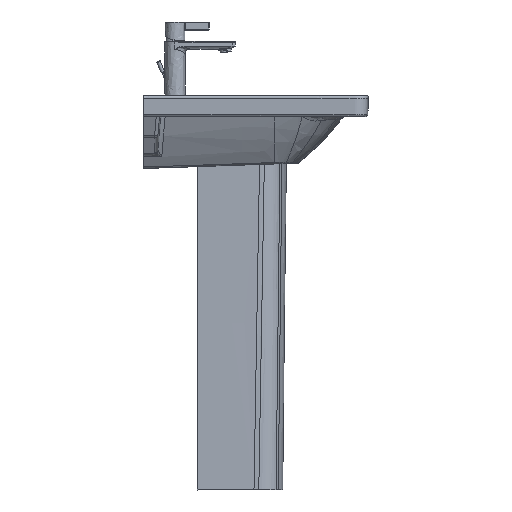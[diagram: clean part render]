
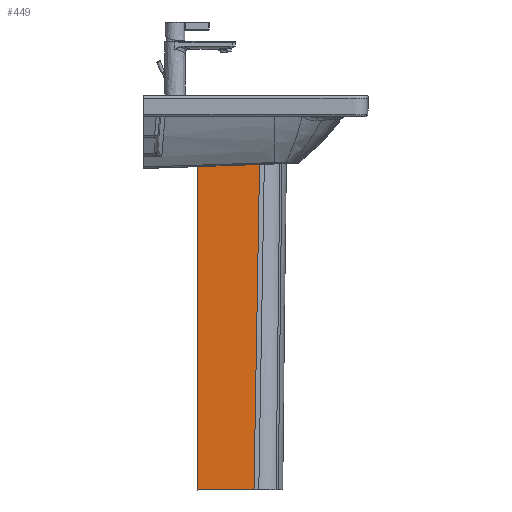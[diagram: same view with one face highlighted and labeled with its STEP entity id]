
A CAD part, left-side view. The second image highlights one B-rep face of the part: STEP entity #449.
In plain terms, the highlighted free-form (B-spline) face has degree [5, 5] with [9, 6] control points.
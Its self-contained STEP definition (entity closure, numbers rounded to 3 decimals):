
#449=ADVANCED_FACE('',(#1108),#9706,.T.);
#1108=FACE_OUTER_BOUND('',#1778,.T.);
#1778=EDGE_LOOP('',(#3823,#3824,#3825,#3826));
#3823=ORIENTED_EDGE('',*,*,#6135,.T.);
#3824=ORIENTED_EDGE('',*,*,#6137,.T.);
#3825=ORIENTED_EDGE('',*,*,#6136,.F.);
#3826=ORIENTED_EDGE('',*,*,#6121,.F.);
#6121=EDGE_CURVE('',#8967,#8953,#7920,.T.);
#6135=EDGE_CURVE('',#8967,#8974,#7934,.T.);
#6136=EDGE_CURVE('',#8953,#8954,#7935,.T.);
#6137=EDGE_CURVE('',#8974,#8954,#7936,.T.);
#7920=B_SPLINE_CURVE_WITH_KNOTS('',5,(#81578,#81579,#81580,#81581,#81582,
#81583,#81584,#81585,#81586,#81587,#81588,#81589,#81590,#81591,#81592,#81593,
#81594,#81595,#81596,#81597,#81598,#81599,#81600,#81601,#81602,#81603,#81604),
 .UNSPECIFIED.,.F.,.F.,(6,3,3,3,3,3,3,3,6),(-1014.293,-939.337,
-737.18,-534.646,-481.407,-329.77,
-152.247,-0.123,0.),.UNSPECIFIED.);
#7934=B_SPLINE_CURVE_WITH_KNOTS('',5,(#81801,#81802,#81803,#81804,#81805,
#81806),.UNSPECIFIED.,.F.,.F.,(6,6),(-44.424,76.24),
 .UNSPECIFIED.);
#7935=B_SPLINE_CURVE_WITH_KNOTS('',5,(#81807,#81808,#81809,#81810,#81811,
#81812),.UNSPECIFIED.,.F.,.F.,(6,6),(-132.778,0.),
 .UNSPECIFIED.);
#7936=B_SPLINE_CURVE_WITH_KNOTS('',5,(#81813,#81814,#81815,#81816,#81817,
#81818,#81819,#81820,#81821),.UNSPECIFIED.,.F.,.F.,(6,3,6),(-715.162,
-357.581,0.),.UNSPECIFIED.);
#8953=VERTEX_POINT('',#81302);
#8954=VERTEX_POINT('',#81303);
#8967=VERTEX_POINT('',#81316);
#8974=VERTEX_POINT('',#81323);
#9706=B_SPLINE_SURFACE_WITH_KNOTS('',5,5,((#79519,#79520,#79521,#79522,
#79523,#79524),(#79525,#79526,#79527,#79528,#79529,#79530),(#79531,#79532,
#79533,#79534,#79535,#79536),(#79537,#79538,#79539,#79540,#79541,#79542),
(#79543,#79544,#79545,#79546,#79547,#79548),(#79549,#79550,#79551,#79552,
#79553,#79554),(#79555,#79556,#79557,#79558,#79559,#79560),(#79561,#79562,
#79563,#79564,#79565,#79566),(#79567,#79568,#79569,#79570,#79571,#79572)),
 .UNSPECIFIED.,.F.,.F.,.F.,(6,3,6),(6,6),(0.,357.581,715.162),
(-86.45,76.24),.UNSPECIFIED.);
#79519=CARTESIAN_POINT('',(-11.217,79.966,-44.927));
#79520=CARTESIAN_POINT('',(-10.717,47.414,-44.927));
#79521=CARTESIAN_POINT('',(-10.217,14.861,-44.927));
#79522=CARTESIAN_POINT('',(-9.717,-17.691,-44.927));
#79523=CARTESIAN_POINT('',(-9.217,-50.244,-44.927));
#79524=CARTESIAN_POINT('',(-8.717,-82.797,-44.927));
#79525=CARTESIAN_POINT('',(-10.467,81.166,-116.427));
#79526=CARTESIAN_POINT('',(-10.301,48.612,-116.43));
#79527=CARTESIAN_POINT('',(-9.89,16.059,-116.43));
#79528=CARTESIAN_POINT('',(-9.357,-16.492,-116.428));
#79529=CARTESIAN_POINT('',(-8.823,-49.044,-116.426));
#79530=CARTESIAN_POINT('',(-8.412,-81.597,-116.427));
#79531=CARTESIAN_POINT('',(-9.717,82.366,-187.927));
#79532=CARTESIAN_POINT('',(-10.12,49.816,-187.936));
#79533=CARTESIAN_POINT('',(-9.915,17.269,-187.939));
#79534=CARTESIAN_POINT('',(-9.36,-15.275,-187.938));
#79535=CARTESIAN_POINT('',(-8.713,-47.821,-187.937));
#79536=CARTESIAN_POINT('',(-8.233,-80.369,-187.938));
#79537=CARTESIAN_POINT('',(-8.967,83.566,-259.427));
#79538=CARTESIAN_POINT('',(-8.773,51.021,-259.43));
#79539=CARTESIAN_POINT('',(-8.13,18.482,-259.426));
#79540=CARTESIAN_POINT('',(-7.317,-14.054,-259.419));
#79541=CARTESIAN_POINT('',(-6.609,-46.59,-259.412));
#79542=CARTESIAN_POINT('',(-6.282,-79.132,-259.41));
#79543=CARTESIAN_POINT('',(-7.467,85.966,-402.427));
#79544=CARTESIAN_POINT('',(-7.662,53.427,-402.434));
#79545=CARTESIAN_POINT('',(-7.074,20.899,-402.432));
#79546=CARTESIAN_POINT('',(-6.108,-11.623,-402.426));
#79547=CARTESIAN_POINT('',(-5.169,-44.146,-402.42));
#79548=CARTESIAN_POINT('',(-4.662,-76.676,-402.419));
#79549=CARTESIAN_POINT('',(-5.967,88.366,-545.427));
#79550=CARTESIAN_POINT('',(-5.773,55.835,-545.43));
#79551=CARTESIAN_POINT('',(-4.978,23.317,-545.426));
#79552=CARTESIAN_POINT('',(-3.924,-9.195,-545.42));
#79553=CARTESIAN_POINT('',(-2.952,-41.708,-545.413));
#79554=CARTESIAN_POINT('',(-2.401,-74.227,-545.41));
#79555=CARTESIAN_POINT('',(-5.217,89.566,-616.927));
#79556=CARTESIAN_POINT('',(-5.62,57.037,-616.936));
#79557=CARTESIAN_POINT('',(-5.224,24.519,-616.939));
#79558=CARTESIAN_POINT('',(-4.368,-7.992,-616.939));
#79559=CARTESIAN_POINT('',(-3.391,-40.503,-616.938));
#79560=CARTESIAN_POINT('',(-2.632,-73.021,-616.939));
#79561=CARTESIAN_POINT('',(-4.467,90.766,-688.427));
#79562=CARTESIAN_POINT('',(-4.301,58.24,-688.43));
#79563=CARTESIAN_POINT('',(-3.737,25.722,-688.43));
#79564=CARTESIAN_POINT('',(-2.964,-6.792,-688.429));
#79565=CARTESIAN_POINT('',(-2.167,-39.306,-688.427));
#79566=CARTESIAN_POINT('',(-1.533,-71.822,-688.427));
#79567=CARTESIAN_POINT('',(-3.717,91.966,-759.927));
#79568=CARTESIAN_POINT('',(-3.218,59.449,-759.927));
#79569=CARTESIAN_POINT('',(-2.718,26.931,-759.927));
#79570=CARTESIAN_POINT('',(-2.219,-5.587,-759.927));
#79571=CARTESIAN_POINT('',(-1.72,-38.104,-759.927));
#79572=CARTESIAN_POINT('',(-1.22,-70.622,-759.927));
#81302=CARTESIAN_POINT('',(-10.757,49.966,-44.927));
#81303=CARTESIAN_POINT('',(-8.717,-82.797,-44.927));
#81316=CARTESIAN_POINT('',(-3.072,49.966,-759.927));
#81323=CARTESIAN_POINT('',(-1.22,-70.622,-759.927));
#81578=CARTESIAN_POINT('',(-3.072,49.966,-759.927));
#81579=CARTESIAN_POINT('',(-3.215,49.966,-749.329));
#81580=CARTESIAN_POINT('',(-3.365,49.966,-738.731));
#81581=CARTESIAN_POINT('',(-3.517,49.966,-728.134));
#81582=CARTESIAN_POINT('',(-4.071,49.966,-688.954));
#81583=CARTESIAN_POINT('',(-4.584,49.966,-649.773));
#81584=CARTESIAN_POINT('',(-4.903,49.966,-621.105));
#81585=CARTESIAN_POINT('',(-5.481,49.966,-563.884));
#81586=CARTESIAN_POINT('',(-6.035,49.966,-506.664));
#81587=CARTESIAN_POINT('',(-6.328,49.966,-478.208));
#81588=CARTESIAN_POINT('',(-6.744,49.966,-442.044));
#81589=CARTESIAN_POINT('',(-7.149,49.966,-405.88));
#81590=CARTESIAN_POINT('',(-7.211,49.966,-400.24));
#81591=CARTESIAN_POINT('',(-7.523,49.966,-371.272));
#81592=CARTESIAN_POINT('',(-7.827,49.966,-342.305));
#81593=CARTESIAN_POINT('',(-8.065,49.966,-320.814));
#81594=CARTESIAN_POINT('',(-8.601,49.966,-274.274));
#81595=CARTESIAN_POINT('',(-9.148,49.966,-227.734));
#81596=CARTESIAN_POINT('',(-9.434,49.966,-202.722));
#81597=CARTESIAN_POINT('',(-9.914,49.966,-156.113));
#81598=CARTESIAN_POINT('',(-10.296,49.966,-109.502));
#81599=CARTESIAN_POINT('',(-10.451,49.966,-88.033));
#81600=CARTESIAN_POINT('',(-10.595,49.966,-66.506));
#81601=CARTESIAN_POINT('',(-10.756,49.966,-44.979));
#81602=CARTESIAN_POINT('',(-10.756,49.966,-44.976));
#81603=CARTESIAN_POINT('',(-10.756,49.966,-44.951));
#81604=CARTESIAN_POINT('',(-10.757,49.966,-44.927));
#81801=CARTESIAN_POINT('',(-3.072,49.966,-759.927));
#81802=CARTESIAN_POINT('',(-2.702,25.849,-759.927));
#81803=CARTESIAN_POINT('',(-2.331,1.731,-759.927));
#81804=CARTESIAN_POINT('',(-1.961,-22.387,-759.927));
#81805=CARTESIAN_POINT('',(-1.591,-46.504,-759.927));
#81806=CARTESIAN_POINT('',(-1.22,-70.622,-759.927));
#81807=CARTESIAN_POINT('',(-10.757,49.966,-44.927));
#81808=CARTESIAN_POINT('',(-10.349,23.414,-44.927));
#81809=CARTESIAN_POINT('',(-9.941,-3.139,-44.927));
#81810=CARTESIAN_POINT('',(-9.533,-29.691,-44.927));
#81811=CARTESIAN_POINT('',(-9.125,-56.244,-44.927));
#81812=CARTESIAN_POINT('',(-8.717,-82.797,-44.927));
#81813=CARTESIAN_POINT('',(-1.22,-70.622,-759.927));
#81814=CARTESIAN_POINT('',(-1.533,-71.822,-688.427));
#81815=CARTESIAN_POINT('',(-2.632,-73.021,-616.939));
#81816=CARTESIAN_POINT('',(-2.401,-74.227,-545.41));
#81817=CARTESIAN_POINT('',(-4.662,-76.676,-402.419));
#81818=CARTESIAN_POINT('',(-6.282,-79.132,-259.41));
#81819=CARTESIAN_POINT('',(-8.233,-80.369,-187.938));
#81820=CARTESIAN_POINT('',(-8.412,-81.597,-116.427));
#81821=CARTESIAN_POINT('',(-8.717,-82.797,-44.927));
